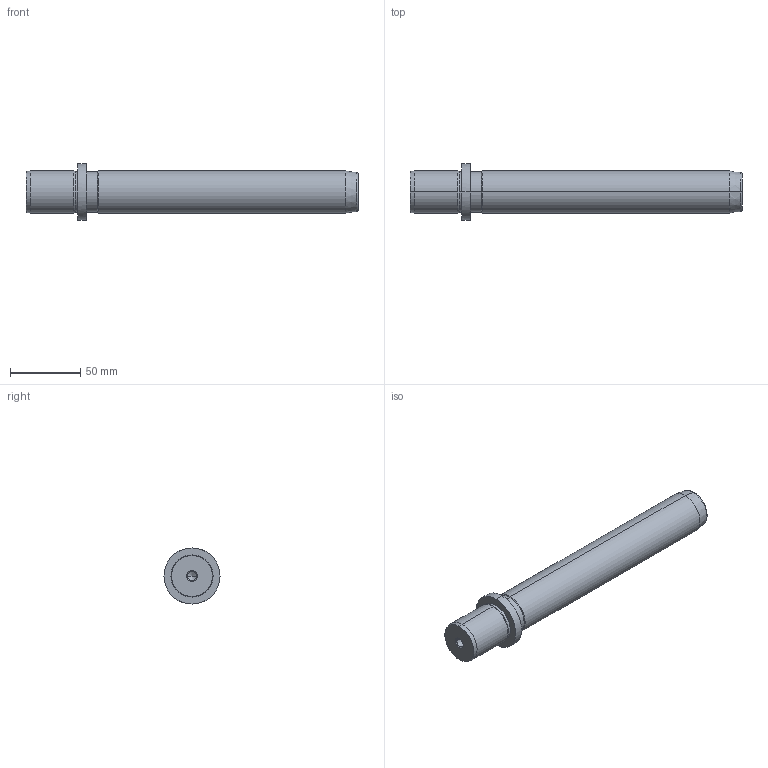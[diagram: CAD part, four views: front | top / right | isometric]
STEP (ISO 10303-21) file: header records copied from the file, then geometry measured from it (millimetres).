
FILE_DESCRIPTION(('CATIA V5 STEP Exchange'),'2;1');
FILE_NAME('C:\Users\Utente\Desktop\IO LAVORO\3D X SITO CF\X SITO\718\718-30x200.stp','2021-01-02T13:14:22+00:00',('none'),('none'),'CATIA Version 5 Release 20 GA (IN-10)','CATIA V5 STEP AP203','none');
FILE_SCHEMA(('CONFIG_CONTROL_DESIGN'));
Length unit declared in the file: millimetre
Products named in the file (1): 718-30x200
Bounding box: 237 x 40 x 40 mm (x, y, z)
Volume: 168015.1 mm3; surface area: 25917.7 mm2
Topology: 1 solids, 1 shells, 36 faces, 100 edges, 66 vertices
Faces by surface type: cone 16, cylinder 14, plane 4, torus 2
Entity records: 1291 total; most frequent: CARTESIAN_POINT 362, ORIENTED_EDGE 192, DIRECTION 157, EDGE_CURVE 96, AXIS2_PLACEMENT_3D 92, VERTEX_POINT 66, CIRCLE 55, EDGE_LOOP 40
